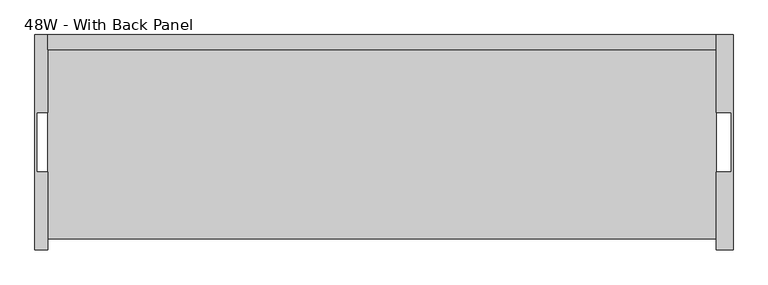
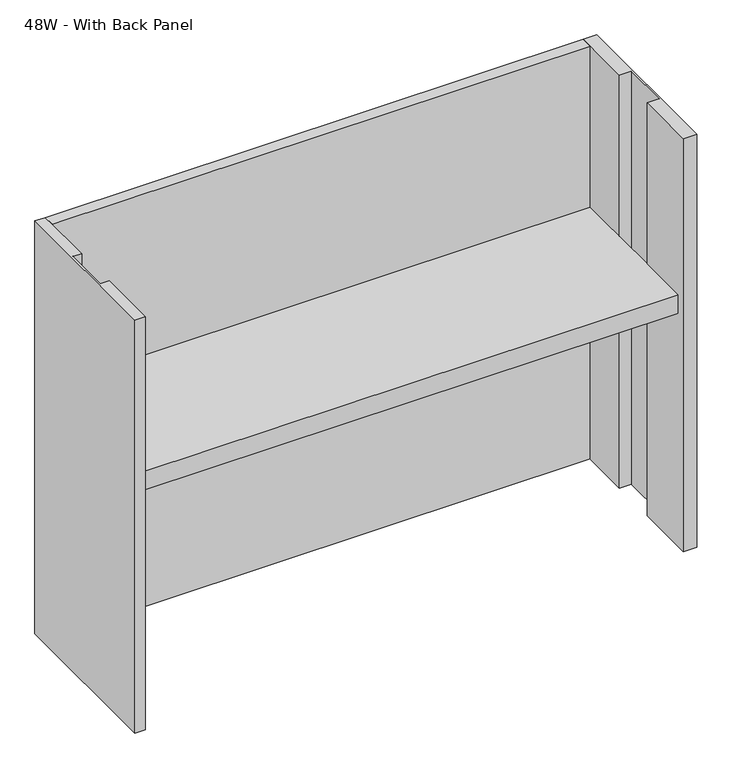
"""IFC4 building model written with IfcOpenShell, lengths in millimetres: furniture geometry, Steelcase - Kick Freestanding - Overhead Storage Cabinet With Shelves : 48W - With Back Panel."""

from ifc_helpers import new_model, si_unit, frame, origin, place, context, project, spatial, polyline, outline, extrude, source, transform, mapped, element, save


def furniture_48w_with_back_panel_54109182(model_context):
    return source(origin(), model_context, "Body", "SweptSolid", [
        extrude(outline(polyline([(1177.7138992, -53.9750008), (1177.7138992, -377.8257956), (34.7138992, -377.8257956), (34.7138992, -53.9750008), (1177.7138992, -53.9750008)])), frame((0.0, 0.0, 1018.9431215), z_axis=(0.0, 0.0, 1.0), x_axis=(1.0, 0.0, 0.0)), (0.0, 0.0, 1.0), 41.2749516),
        extrude(outline(polyline([(1177.7138992, -28.575), (1206.5, -28.575), (1206.5, -396.875), (1177.7138992, -396.875), (1177.7138992, -263.5265924), (1203.323793, -263.5265924), (1203.323793, -161.9265984), (1177.7138992, -161.9265984), (1177.7138992, -28.575)])), frame((0.0, 0.0, 495.068073), z_axis=(0.0, 0.0, 1.0), x_axis=(1.0, 0.0, 0.0)), (0.0, 0.0, 1.0), 927.1),
        extrude(outline(polyline([(1177.7138992, -53.9750008), (34.7138992, -53.9750008), (34.7138992, -28.575), (1177.7138992, -28.575), (1177.7138992, -53.9750008)])), frame((0.0, 0.0, 495.068073), z_axis=(0.0, 0.0, 1.0), x_axis=(1.0, 0.0, 0.0)), (0.0, 0.0, 1.0), 927.1),
        extrude(outline(polyline([(34.7138992, -28.575), (34.7138992, -161.9250023), (15.8750004, -161.9250023), (15.8750004, -263.5249962), (34.7138992, -263.5249962), (34.7138992, -396.875), (12.7, -396.875), (12.7, -28.575), (34.7138992, -28.575)])), frame((0.0, 0.0, 495.068073), z_axis=(0.0, 0.0, 1.0), x_axis=(1.0, 0.0, 0.0)), (0.0, 0.0, 1.0), 927.1),
    ])


if __name__ == "__main__":
    model = new_model("IFC4")
    model_context = context("Model", 3, world=origin())
    ifc_project = project(units=[si_unit("LENGTHUNIT", "METRE", prefix="MILLI")], contexts=[model_context])
    site = spatial("IfcSite", under=ifc_project)
    building = spatial("IfcBuilding", under=site)
    placement = place(None, origin())
    furniture_48w_with_back_panel_shape = furniture_48w_with_back_panel_54109182(model_context)
    element("IfcFurniture", 1, ObjectType="Steelcase - Kick Freestanding - Overhead Storage Cabinet With Shelves : 48W - With Back Panel", at=placement, inside=building, context=model_context, shape_type="MappedRepresentation", body=[
        mapped(furniture_48w_with_back_panel_shape, transform((0.0, 0.0, 0.0), x_axis=(1.0, 0.0, 0.0), y_axis=(0.0, 1.0, 0.0), z_axis=(0.0, 0.0, 1.0))),
    ])
    save(model, "model.ifc")
